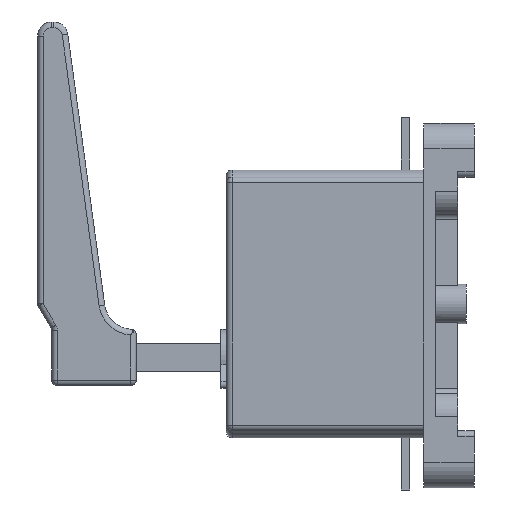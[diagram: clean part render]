
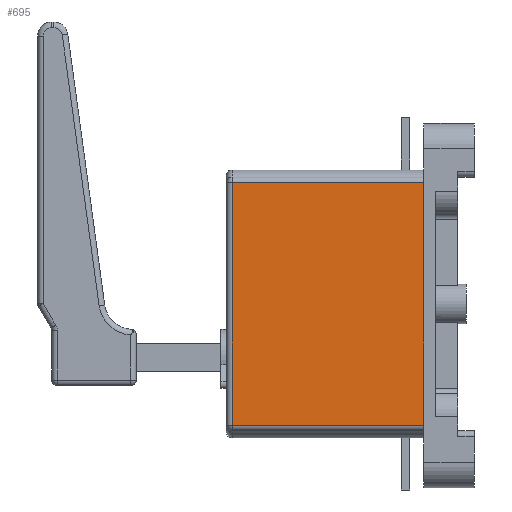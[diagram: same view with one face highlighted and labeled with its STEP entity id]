
A CAD part, left-side view. The second image highlights one B-rep face of the part: STEP entity #695.
In plain terms, the highlighted planar face has unit normal (-1, 0, 0).
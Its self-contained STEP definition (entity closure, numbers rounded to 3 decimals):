
#695=ADVANCED_FACE('',(#974),#810,.F.);
#810=PLANE('',#4294);
#974=FACE_OUTER_BOUND('',#1257,.T.);
#1257=EDGE_LOOP('',(#2228,#2229,#2230,#2231));
#2228=ORIENTED_EDGE('',*,*,#3222,.F.);
#2229=ORIENTED_EDGE('',*,*,#3209,.T.);
#2230=ORIENTED_EDGE('',*,*,#3223,.T.);
#2231=ORIENTED_EDGE('',*,*,#3061,.T.);
#2590=VERTEX_POINT('',#6271);
#2591=VERTEX_POINT('',#6273);
#2690=VERTEX_POINT('',#6599);
#2694=VERTEX_POINT('',#6615);
#3061=EDGE_CURVE('',#2591,#2590,#3466,.T.);
#3209=EDGE_CURVE('',#2690,#2694,#3538,.T.);
#3222=EDGE_CURVE('',#2690,#2590,#3545,.T.);
#3223=EDGE_CURVE('',#2694,#2591,#3546,.T.);
#3466=LINE('',#6272,#3789);
#3538=LINE('',#6616,#3861);
#3545=LINE('',#6653,#3868);
#3546=LINE('',#6655,#3869);
#3789=VECTOR('',#5085,1.);
#3861=VECTOR('',#5413,1.);
#3868=VECTOR('',#5438,1.);
#3869=VECTOR('',#5441,1.);
#4294=AXIS2_PLACEMENT_3D('',#6656,#5442,#5443);
#5085=DIRECTION('',(0.,0.,1.));
#5413=DIRECTION('',(0.,0.,-1.));
#5438=DIRECTION('',(0.,-1.,0.));
#5441=DIRECTION('',(0.,-1.,0.));
#5442=DIRECTION('',(1.,0.,0.));
#5443=DIRECTION('',(0.,0.,-1.));
#6271=CARTESIAN_POINT('',(-41.,0.,43.));
#6272=CARTESIAN_POINT('',(-41.,0.,-43.));
#6273=CARTESIAN_POINT('',(-41.,0.,-43.));
#6599=CARTESIAN_POINT('',(-41.,68.,43.));
#6615=CARTESIAN_POINT('',(-41.,68.,-43.));
#6616=CARTESIAN_POINT('',(-41.,68.,-43.));
#6653=CARTESIAN_POINT('',(-41.,35.,43.));
#6655=CARTESIAN_POINT('',(-41.,35.,-43.));
#6656=CARTESIAN_POINT('',(-41.,35.,-43.));
